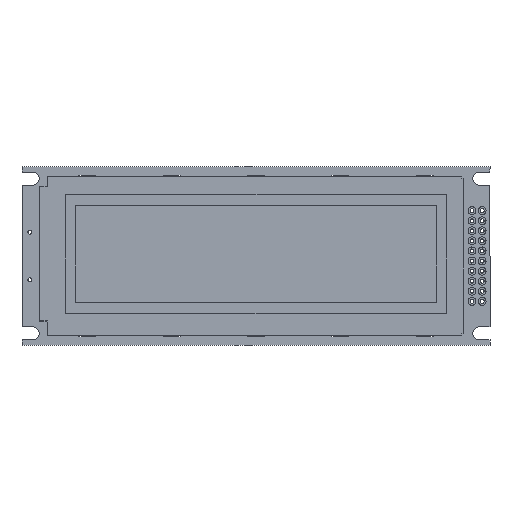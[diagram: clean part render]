
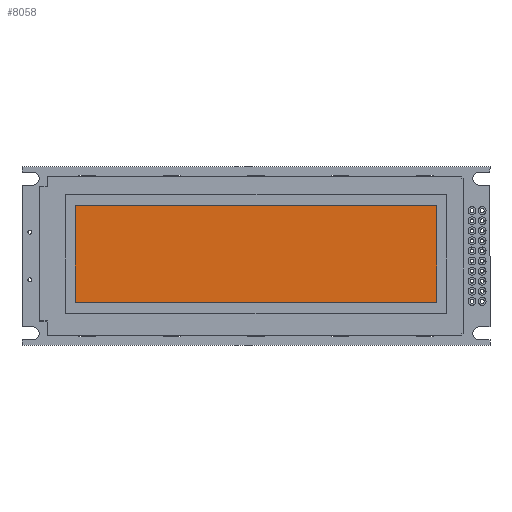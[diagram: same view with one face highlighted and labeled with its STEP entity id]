
A CAD part, top view. The second image highlights one B-rep face of the part: STEP entity #8058.
In plain terms, the highlighted planar face has unit normal (0, 0, 1).
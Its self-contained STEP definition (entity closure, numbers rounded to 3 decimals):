
#116 = LINE ( 'NONE', #8397, #7852 ) ;
#313 = AXIS2_PLACEMENT_3D ( 'NONE', #2511, #12726, #3985 ) ;
#1617 = ORIENTED_EDGE ( 'NONE', *, *, #17144, .T. ) ;
#1969 = VECTOR ( 'NONE', #11665, 1000. ) ;
#2311 = CARTESIAN_POINT ( 'NONE',  ( -45.58, 12.64, 8.4 ) ) ;
#2511 = CARTESIAN_POINT ( 'NONE',  ( 0., 0., 8.4 ) ) ;
#2726 = EDGE_LOOP ( 'NONE', ( #1617, #3451, #10698, #13215 ) ) ;
#2800 = VERTEX_POINT ( 'NONE', #2948 ) ;
#2948 = CARTESIAN_POINT ( 'NONE',  ( -45.58, -11.64, 8.4 ) ) ;
#3451 = ORIENTED_EDGE ( 'NONE', *, *, #9700, .T. ) ;
#3856 = PLANE ( 'NONE',  #313 ) ;
#3985 = DIRECTION ( 'NONE',  ( 1., 0., 0. ) ) ;
#4224 = LINE ( 'NONE', #2311, #15398 ) ;
#4663 = VERTEX_POINT ( 'NONE', #4981 ) ;
#4981 = CARTESIAN_POINT ( 'NONE',  ( -45.58, 12.64, 8.4 ) ) ;
#6170 = FACE_OUTER_BOUND ( 'NONE', #2726, .T. ) ;
#6801 = EDGE_CURVE ( 'NONE', #9353, #11166, #116, .T. ) ;
#7852 = VECTOR ( 'NONE', #18570, 1000. ) ;
#8058 = ADVANCED_FACE ( 'NONE', ( #6170 ), #3856, .T. ) ;
#8397 = CARTESIAN_POINT ( 'NONE',  ( 45.58, 12.64, 8.4 ) ) ;
#9183 = VECTOR ( 'NONE', #13896, 1000. ) ;
#9353 = VERTEX_POINT ( 'NONE', #16520 ) ;
#9700 = EDGE_CURVE ( 'NONE', #2800, #9353, #17474, .T. ) ;
#9897 = EDGE_CURVE ( 'NONE', #11166, #4663, #4224, .T. ) ;
#10698 = ORIENTED_EDGE ( 'NONE', *, *, #6801, .T. ) ;
#11005 = CARTESIAN_POINT ( 'NONE',  ( -45.58, 12.64, 8.4 ) ) ;
#11166 = VERTEX_POINT ( 'NONE', #11354 ) ;
#11354 = CARTESIAN_POINT ( 'NONE',  ( 45.58, 12.64, 8.4 ) ) ;
#11665 = DIRECTION ( 'NONE',  ( 1., 0., 0. ) ) ;
#12594 = DIRECTION ( 'NONE',  ( -1., 0., 0. ) ) ;
#12726 = DIRECTION ( 'NONE',  ( 0., 0., 1. ) ) ;
#13047 = LINE ( 'NONE', #11005, #9183 ) ;
#13105 = CARTESIAN_POINT ( 'NONE',  ( -45.58, -11.64, 8.4 ) ) ;
#13215 = ORIENTED_EDGE ( 'NONE', *, *, #9897, .T. ) ;
#13896 = DIRECTION ( 'NONE',  ( 0., -1., 0. ) ) ;
#15398 = VECTOR ( 'NONE', #12594, 1000. ) ;
#16520 = CARTESIAN_POINT ( 'NONE',  ( 45.58, -11.64, 8.4 ) ) ;
#17144 = EDGE_CURVE ( 'NONE', #4663, #2800, #13047, .T. ) ;
#17474 = LINE ( 'NONE', #13105, #1969 ) ;
#18570 = DIRECTION ( 'NONE',  ( 0., 1., 0. ) ) ;
